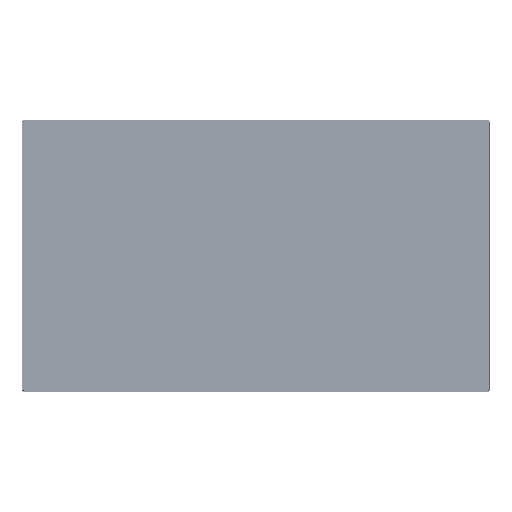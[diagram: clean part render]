
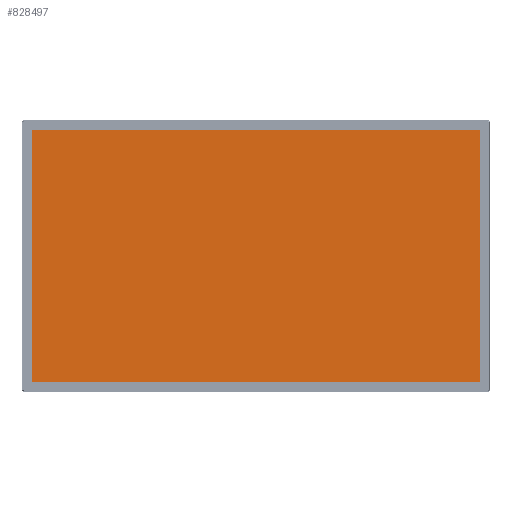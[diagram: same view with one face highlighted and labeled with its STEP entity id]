
A CAD part, top view. The second image highlights one B-rep face of the part: STEP entity #828497.
In plain terms, the highlighted planar face has unit normal (0, 0, 1).
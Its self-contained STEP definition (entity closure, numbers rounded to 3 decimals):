
#6386 = EDGE_CURVE ( 'NONE', #872023, #500079, #1016899, .T. ) ;
#7038 = EDGE_LOOP ( 'NONE', ( #1030106, #393219, #215950, #764592 ) ) ;
#18793 = EDGE_CURVE ( 'NONE', #500079, #592140, #430192, .T. ) ;
#53232 = CARTESIAN_POINT ( 'NONE',  ( 0., 0., 1.75 ) ) ;
#100668 = VERTEX_POINT ( 'NONE', #710019 ) ;
#106336 = CARTESIAN_POINT ( 'NONE',  ( 471.595, 265.71, 1.75 ) ) ;
#131237 = VECTOR ( 'NONE', #512705, 1000. ) ;
#214365 = LINE ( 'NONE', #402538, #218673 ) ;
#215950 = ORIENTED_EDGE ( 'NONE', *, *, #6386, .T. ) ;
#218673 = VECTOR ( 'NONE', #843957, 1000. ) ;
#222430 = CARTESIAN_POINT ( 'NONE',  ( 471.595, 265.71, 1.75 ) ) ;
#247081 = DIRECTION ( 'NONE',  ( 0., 0., 1. ) ) ;
#259407 = CARTESIAN_POINT ( 'NONE',  ( -471.595, 265.71, 1.75 ) ) ;
#326881 = CARTESIAN_POINT ( 'NONE',  ( 471.595, -265.71, 1.75 ) ) ;
#393219 = ORIENTED_EDGE ( 'NONE', *, *, #743300, .T. ) ;
#402538 = CARTESIAN_POINT ( 'NONE',  ( -471.595, -265.71, 1.75 ) ) ;
#430192 = LINE ( 'NONE', #259407, #131237 ) ;
#500079 = VERTEX_POINT ( 'NONE', #1004119 ) ;
#512705 = DIRECTION ( 'NONE',  ( 0., -1., 0. ) ) ;
#550742 = EDGE_CURVE ( 'NONE', #592140, #100668, #214365, .T. ) ;
#592140 = VERTEX_POINT ( 'NONE', #641413 ) ;
#603247 = LINE ( 'NONE', #326881, #682560 ) ;
#606043 = DIRECTION ( 'NONE',  ( 1., 0., 0. ) ) ;
#641413 = CARTESIAN_POINT ( 'NONE',  ( -471.595, -265.71, 1.75 ) ) ;
#682560 = VECTOR ( 'NONE', #685836, 1000. ) ;
#685836 = DIRECTION ( 'NONE',  ( 0., 1., 0. ) ) ;
#710019 = CARTESIAN_POINT ( 'NONE',  ( 471.595, -265.71, 1.75 ) ) ;
#743300 = EDGE_CURVE ( 'NONE', #100668, #872023, #603247, .T. ) ;
#764592 = ORIENTED_EDGE ( 'NONE', *, *, #18793, .T. ) ;
#828497 = ADVANCED_FACE ( 'NONE', ( #1053150 ), #1047399, .T. ) ;
#840387 = DIRECTION ( 'NONE',  ( -1., 0., 0. ) ) ;
#843957 = DIRECTION ( 'NONE',  ( 1., 0., 0. ) ) ;
#872023 = VERTEX_POINT ( 'NONE', #106336 ) ;
#1004119 = CARTESIAN_POINT ( 'NONE',  ( -471.595, 265.71, 1.75 ) ) ;
#1016899 = LINE ( 'NONE', #222430, #1047396 ) ;
#1018469 = AXIS2_PLACEMENT_3D ( 'NONE', #53232, #247081, #606043 ) ;
#1030106 = ORIENTED_EDGE ( 'NONE', *, *, #550742, .T. ) ;
#1047396 = VECTOR ( 'NONE', #840387, 1000. ) ;
#1047399 = PLANE ( 'NONE',  #1018469 ) ;
#1053150 = FACE_OUTER_BOUND ( 'NONE', #7038, .T. ) ;
